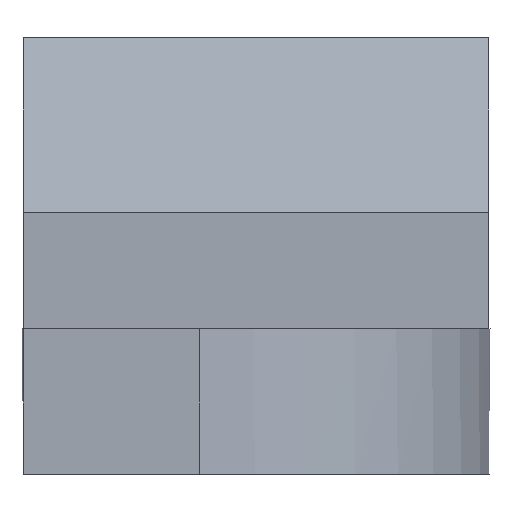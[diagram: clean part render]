
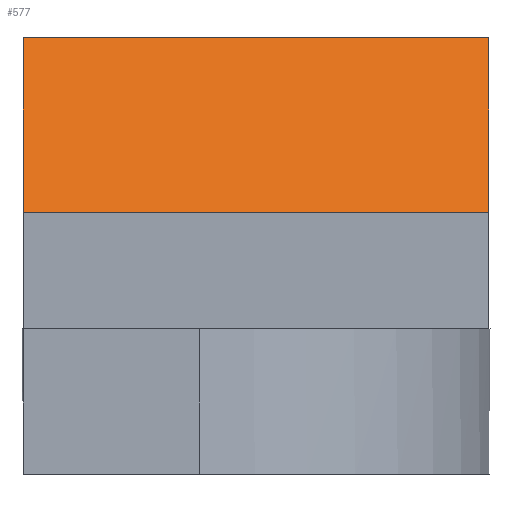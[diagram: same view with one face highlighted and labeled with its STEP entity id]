
A CAD part, left-side view. The second image highlights one B-rep face of the part: STEP entity #577.
In plain terms, the highlighted planar face has unit normal (-0.707, 0, 0.707).
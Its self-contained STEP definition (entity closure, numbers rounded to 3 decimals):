
#24 = LINE ( 'NONE', #169, #138 ) ;
#34 = CARTESIAN_POINT ( 'NONE',  ( -6.441, -2.684, 5. ) ) ;
#60 = CARTESIAN_POINT ( 'NONE',  ( -9.441, 5.316, 2. ) ) ;
#70 = CARTESIAN_POINT ( 'NONE',  ( -9.441, 5.316, 2. ) ) ;
#119 = VECTOR ( 'NONE', #336, 1000. ) ;
#124 = ORIENTED_EDGE ( 'NONE', *, *, #367, .F. ) ;
#126 = DIRECTION ( 'NONE',  ( 0.707, 0., 0.707 ) ) ;
#138 = VECTOR ( 'NONE', #126, 1000. ) ;
#154 = ORIENTED_EDGE ( 'NONE', *, *, #603, .F. ) ;
#169 = CARTESIAN_POINT ( 'NONE',  ( -7.941, 5.316, 3.5 ) ) ;
#170 = FACE_OUTER_BOUND ( 'NONE', #412, .T. ) ;
#206 = VERTEX_POINT ( 'NONE', #549 ) ;
#218 = DIRECTION ( 'NONE',  ( -0.707, 0., 0.707 ) ) ;
#227 = VERTEX_POINT ( 'NONE', #70 ) ;
#259 = CARTESIAN_POINT ( 'NONE',  ( -6.441, -2.684, 5. ) ) ;
#272 = EDGE_CURVE ( 'NONE', #206, #296, #278, .T. ) ;
#278 = LINE ( 'NONE', #432, #119 ) ;
#296 = VERTEX_POINT ( 'NONE', #34 ) ;
#321 = AXIS2_PLACEMENT_3D ( 'NONE', #370, #218, #556 ) ;
#336 = DIRECTION ( 'NONE',  ( 0., -1., 0. ) ) ;
#367 = EDGE_CURVE ( 'NONE', #437, #227, #387, .T. ) ;
#370 = CARTESIAN_POINT ( 'NONE',  ( -6.441, 0., 5. ) ) ;
#387 = LINE ( 'NONE', #60, #495 ) ;
#412 = EDGE_LOOP ( 'NONE', ( #154, #124, #561, #448 ) ) ;
#432 = CARTESIAN_POINT ( 'NONE',  ( -6.441, -2.684, 5. ) ) ;
#437 = VERTEX_POINT ( 'NONE', #468 ) ;
#448 = ORIENTED_EDGE ( 'NONE', *, *, #272, .F. ) ;
#449 = EDGE_CURVE ( 'NONE', #296, #437, #588, .T. ) ;
#453 = VECTOR ( 'NONE', #546, 1000. ) ;
#459 = DIRECTION ( 'NONE',  ( 0., 1., 0. ) ) ;
#468 = CARTESIAN_POINT ( 'NONE',  ( -9.441, -2.684, 2. ) ) ;
#495 = VECTOR ( 'NONE', #459, 1000. ) ;
#511 = PLANE ( 'NONE',  #321 ) ;
#546 = DIRECTION ( 'NONE',  ( -0.707, 0., -0.707 ) ) ;
#549 = CARTESIAN_POINT ( 'NONE',  ( -6.441, 5.316, 5. ) ) ;
#556 = DIRECTION ( 'NONE',  ( 0., 1., 0. ) ) ;
#561 = ORIENTED_EDGE ( 'NONE', *, *, #449, .F. ) ;
#577 = ADVANCED_FACE ( 'NONE', ( #170 ), #511, .T. ) ;
#588 = LINE ( 'NONE', #259, #453 ) ;
#603 = EDGE_CURVE ( 'NONE', #227, #206, #24, .T. ) ;
